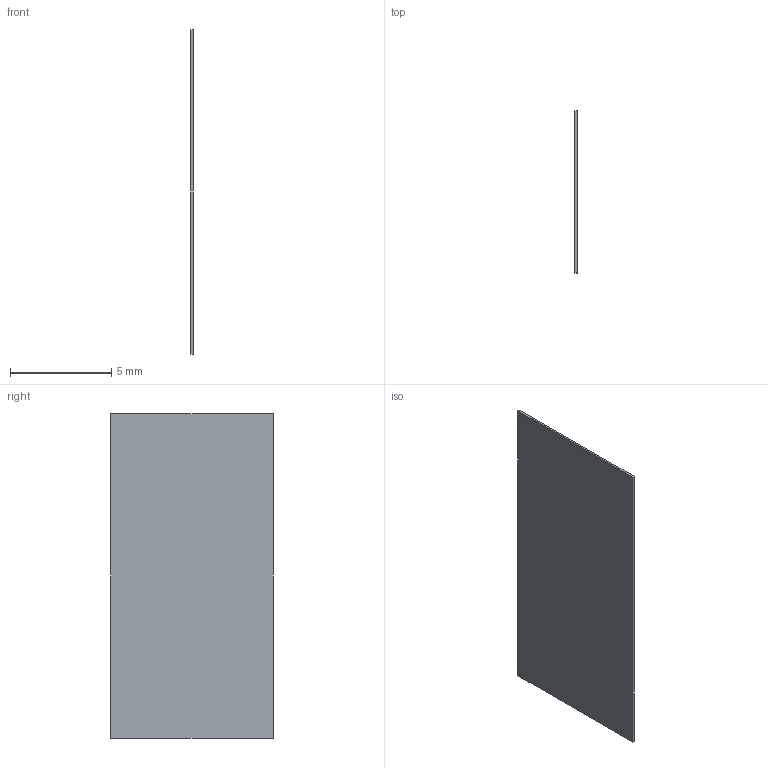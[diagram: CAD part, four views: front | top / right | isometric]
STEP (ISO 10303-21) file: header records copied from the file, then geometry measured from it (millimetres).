
FILE_DESCRIPTION(('Open CASCADE Model'),'2;1');
FILE_NAME('front_grip_PSA_patch_0.10_3','2026-09-04T19:55:25',('Author') ,('Open CASCADE'),'Open CASCADE STEP processor 7.8','build123d', 'Unknown');
FILE_SCHEMA(('AUTOMOTIVE_DESIGN { 1 0 10303 214 1 1 1 1 }'));
Length unit declared in the file: millimetre
Products named in the file (2): =>[0:1:1:2]; front_grip_PSA_patch_0.10_3
Assembly tree (1 placements, depth 2):
  =>[0:1:1:2]
    front_grip_PSA_patch_0.10_3
Bounding box: 0.1 x 8 x 16 mm (x, y, z)
Volume: 12.8 mm3; surface area: 260.8 mm2
Topology: 1 solids, 1 shells, 6 faces, 12 edges, 8 vertices
Faces by surface type: plane 6
Entity records: 349 total; most frequent: CARTESIAN_POINT 52, DIRECTION 52, LINE 36, VECTOR 36, ORIENTED_EDGE 24, PCURVE 24, DEFINITIONAL_REPRESENTATION 24, EDGE_CURVE 12
